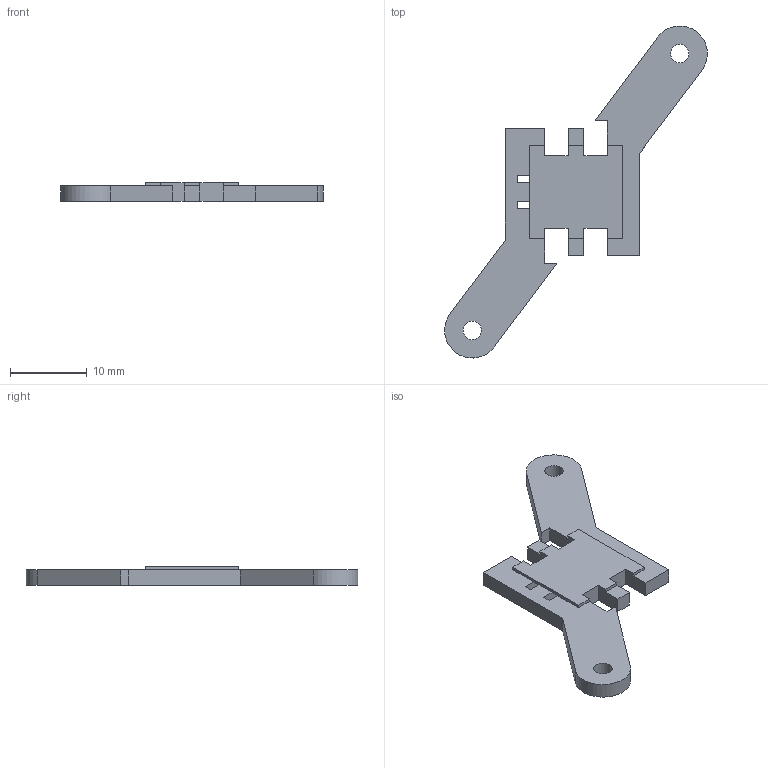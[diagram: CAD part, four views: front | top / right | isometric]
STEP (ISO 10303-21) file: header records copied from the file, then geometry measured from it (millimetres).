
FILE_DESCRIPTION(('Open CASCADE Model'),'2;1');
FILE_NAME('Open CASCADE Shape Model','2026-09-21T11:06:42',('Author'),( 'Open CASCADE'),'Open CASCADE STEP processor 7.7','Open CASCADE 7.7' ,'Unknown');
FILE_SCHEMA(('AUTOMOTIVE_DESIGN { 1 0 10303 214 1 1 1 1 }'));
Length unit declared in the file: millimetre
Products named in the file (1): Open CASCADE STEP translator 7.7 8
Bounding box: 34.19 x 43.19 x 2.4 mm (x, y, z)
Volume: 949.9 mm3; surface area: 1317.8 mm2
Topology: 1 solids, 1 shells, 58 faces, 161 edges, 106 vertices
Faces by surface type: plane 51, cylinder 7
Full cylindrical faces by diameter (mm): 0.84 x3, 2.4 x2
Entity records: 3868 total; most frequent: CARTESIAN_POINT 780, DIRECTION 513, LINE 359, VECTOR 359, ORIENTED_EDGE 322, PCURVE 322, DEFINITIONAL_REPRESENTATION 322, EDGE_CURVE 161
